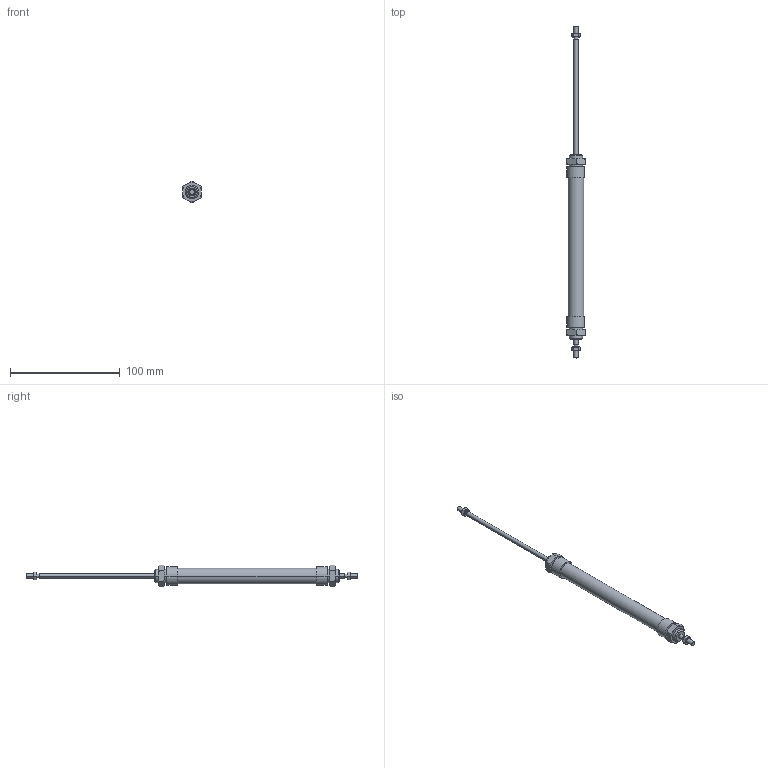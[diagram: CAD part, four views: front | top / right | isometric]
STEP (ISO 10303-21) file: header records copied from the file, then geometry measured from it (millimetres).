
FILE_DESCRIPTION((''),'2;1');
FILE_NAME('I:\DOC-EDP\Lib-3d\1200\CILINDRI\1262\1262_10_0100.stp','2003-04-02T18:57:31',('maffial1'),(''),'Autodesk Inventor (R) 6.0','Autodesk Inventor (R) 6.0','');
FILE_SCHEMA(('AUTOMOTIVE_DESIGN { 1 0 10303 214 1 1 1 1 }'));
Length unit declared in the file: millimetre
Products named in the file (5): 1262_10_0100; S1262_10_100; C1262_10_100; 1200_10_05; 1200_10_06
Assembly tree (6 placements, depth 2):
  1262_10_0100
    S1262_10_100
    C1262_10_100
    1200_10_05  x2
    1200_10_06  x2
Bounding box: 17 x 302 x 19.63 mm (x, y, z)
Volume: 29669.2 mm3; surface area: 15881.6 mm2
Topology: 6 solids, 6 shells, 170 faces, 356 edges, 208 vertices
Faces by surface type: cone 72, plane 46, bspline 30, cylinder 22
Entity records: 3247 total; most frequent: CARTESIAN_POINT 893, DIRECTION 490, ORIENTED_EDGE 456, EDGE_CURVE 228, AXIS2_PLACEMENT_3D 209, VERTEX_POINT 136, EDGE_LOOP 126, FACE_OUTER_BOUND 110
